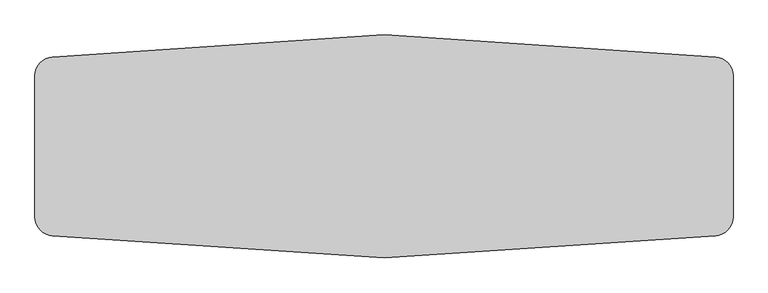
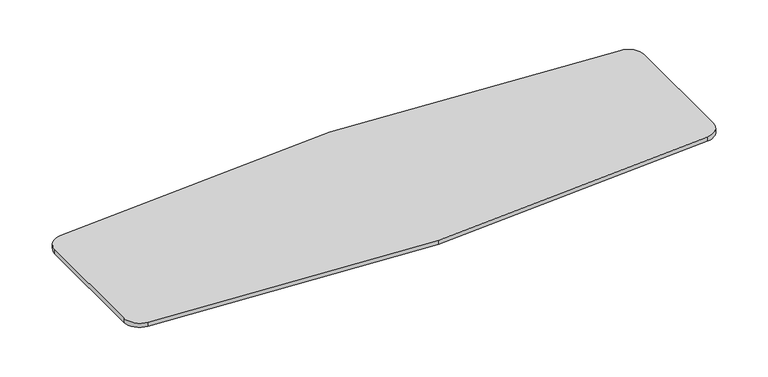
"""IFC4 building model written with IfcOpenShell, lengths in millimetres: furniture geometry, Steelcase - Answer Solution - Universal Table - Hex Conference : 48D x 150W."""

from ifc_helpers import new_model, si_unit, point, frame, frame_2d, origin, place, context, project, spatial, polyline, circle_curve, trimmed, segment, composite_curve, outline, extrude, source, transform, mapped, element, save


def furniture_203bedc0(model_context):
    return source(origin(), model_context, "Body", "SweptSolid", [
        extrude(outline(composite_curve([segment(trimmed(circle_curve(frame_2d((98.425, -353.5314557)), 101.6), [point((-3.175, -353.5314557))], [point((92.789246, -252.0878838))], False, "CARTESIAN"), True, "CONTINUOUS"), segment(polyline([(92.789246, -252.0878838), (1901.825, -130.4192308), (3710.860754, -252.0878838)]), True, "CONTINUOUS"), segment(trimmed(circle_curve(frame_2d((3705.225, -353.5314557)), 101.6), [point((3710.860754, -252.0878838))], [point((3806.825, -353.5314557))], False, "CARTESIAN"), True, "CONTINUOUS"), segment(polyline([(3806.825, -353.5314557), (3806.825, -1126.5070059)]), True, "CONTINUOUS"), segment(trimmed(circle_curve(frame_2d((3705.225, -1126.5070059)), 101.6), [point((3806.825, -1126.5070059))], [point((3710.860754, -1227.9505778))], False, "CARTESIAN"), True, "CONTINUOUS"), segment(polyline([(3710.860754, -1227.9505778), (1901.825, -1349.6192308), (92.789246, -1227.9505778)]), True, "CONTINUOUS"), segment(trimmed(circle_curve(frame_2d((98.425, -1126.5070059)), 101.6), [point((92.789246, -1227.9505778))], [point((-3.175, -1126.5070059))], False, "CARTESIAN"), True, "CONTINUOUS"), segment(polyline([(-3.175, -1126.5070059), (-3.175, -353.5314557)]), True, "CONTINUOUS")], self_intersect=False)), frame((0.0, 0.0, 668.274), z_axis=(0.0, 0.0, 1.0), x_axis=(1.0, 0.0, 0.0)), (0.0, 0.0, 1.0), 28.575),
    ])


if __name__ == "__main__":
    model = new_model("IFC4")
    model_context = context("Model", 3, world=origin())
    ifc_project = project(units=[si_unit("LENGTHUNIT", "METRE", prefix="MILLI")], contexts=[model_context])
    site = spatial("IfcSite", under=ifc_project)
    building = spatial("IfcBuilding", under=site)
    placement = place(None, origin())
    furniture_shape = furniture_203bedc0(model_context)
    element("IfcFurniture", 1, ObjectType="Steelcase - Answer Solution - Universal Table - Hex Conference : 48D x 150W", at=placement, inside=building, context=model_context, shape_type="MappedRepresentation", body=[
        mapped(furniture_shape, transform((0.0, 0.0, 0.0), x_axis=(1.0, 0.0, 0.0), y_axis=(0.0, 1.0, 0.0), z_axis=(0.0, 0.0, 1.0))),
    ])
    save(model, "model.ifc")
